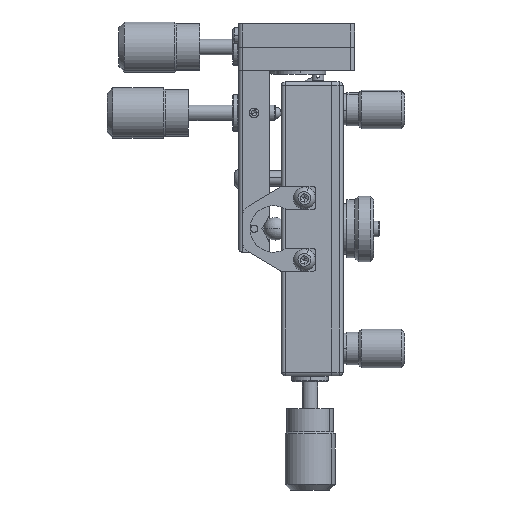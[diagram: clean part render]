
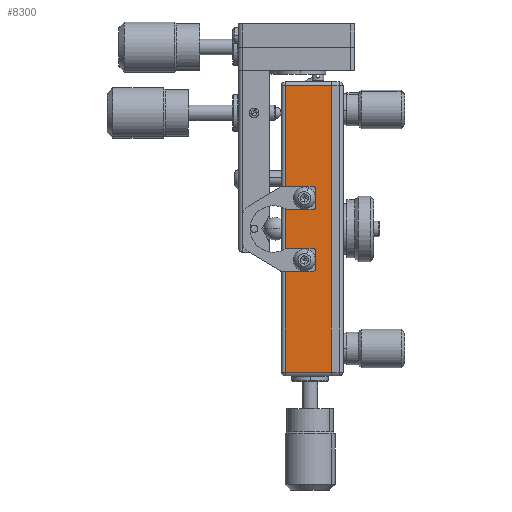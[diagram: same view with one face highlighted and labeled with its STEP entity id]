
A CAD part, left-side view. The second image highlights one B-rep face of the part: STEP entity #8300.
In plain terms, the highlighted planar face has unit normal (-1, 0, 0).
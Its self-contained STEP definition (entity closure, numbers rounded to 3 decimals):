
#57 = CARTESIAN_POINT ( 'NONE',  ( -38.5, -2.25, -37. ) ) ;
#1329 = DIRECTION ( 'NONE',  ( 0., 0., -1. ) ) ;
#1437 = DIRECTION ( 'NONE',  ( 0., 0., -1. ) ) ;
#1662 = VERTEX_POINT ( 'NONE', #5334 ) ;
#2663 = CARTESIAN_POINT ( 'NONE',  ( -38.5, 9.75, 37. ) ) ;
#2817 = ORIENTED_EDGE ( 'NONE', *, *, #28141, .F. ) ;
#3293 = CARTESIAN_POINT ( 'NONE',  ( -38.5, 9.75, -37. ) ) ;
#3414 = ORIENTED_EDGE ( 'NONE', *, *, #5582, .T. ) ;
#3905 = DIRECTION ( 'NONE',  ( 0., 0., -1. ) ) ;
#4269 = DIRECTION ( 'NONE',  ( -1., 0., 0. ) ) ;
#4854 = VERTEX_POINT ( 'NONE', #15795 ) ;
#5334 = CARTESIAN_POINT ( 'NONE',  ( -38.5, 4.75, -9.25 ) ) ;
#5582 = EDGE_CURVE ( 'NONE', #12887, #5741, #33134, .T. ) ;
#5741 = VERTEX_POINT ( 'NONE', #3293 ) ;
#6111 = LINE ( 'NONE', #25613, #20271 ) ;
#6240 = VERTEX_POINT ( 'NONE', #57 ) ;
#6841 = EDGE_CURVE ( 'NONE', #15980, #1662, #20567, .T. ) ;
#7402 = AXIS2_PLACEMENT_3D ( 'NONE', #9508, #14672, #1329 ) ;
#7580 = EDGE_CURVE ( 'NONE', #31473, #13650, #12854, .T. ) ;
#8300 = ADVANCED_FACE ( 'NONE', ( #9772, #13234, #22164 ), #8428, .F. ) ;
#8428 = PLANE ( 'NONE',  #28813 ) ;
#8571 = AXIS2_PLACEMENT_3D ( 'NONE', #23370, #15263, #1437 ) ;
#9124 = CARTESIAN_POINT ( 'NONE',  ( -38.5, 4.75, 6.75 ) ) ;
#9473 = DIRECTION ( 'NONE',  ( 0., -1., 0. ) ) ;
#9508 = CARTESIAN_POINT ( 'NONE',  ( -38.5, 4.75, 8. ) ) ;
#9596 = EDGE_LOOP ( 'NONE', ( #17227, #11741 ) ) ;
#9672 = AXIS2_PLACEMENT_3D ( 'NONE', #28650, #14901, #31386 ) ;
#9772 = FACE_BOUND ( 'NONE', #9596, .T. ) ;
#10731 = LINE ( 'NONE', #27142, #32583 ) ;
#10844 = CARTESIAN_POINT ( 'NONE',  ( -38.5, -2.25, -38. ) ) ;
#11741 = ORIENTED_EDGE ( 'NONE', *, *, #6841, .F. ) ;
#12519 = CIRCLE ( 'NONE', #9672, 1.25 ) ;
#12609 = DIRECTION ( 'NONE',  ( 0., 1., 0. ) ) ;
#12854 = CIRCLE ( 'NONE', #23493, 1.25 ) ;
#12887 = VERTEX_POINT ( 'NONE', #2663 ) ;
#12895 = ORIENTED_EDGE ( 'NONE', *, *, #31710, .T. ) ;
#13234 = FACE_BOUND ( 'NONE', #18410, .T. ) ;
#13464 = CARTESIAN_POINT ( 'NONE',  ( -38.5, 4.75, 9.25 ) ) ;
#13604 = EDGE_CURVE ( 'NONE', #5741, #6240, #6111, .T. ) ;
#13650 = VERTEX_POINT ( 'NONE', #9124 ) ;
#13852 = DIRECTION ( 'NONE',  ( 0., 0., 1. ) ) ;
#13966 = ORIENTED_EDGE ( 'NONE', *, *, #28440, .F. ) ;
#14672 = DIRECTION ( 'NONE',  ( -1., 0., 0. ) ) ;
#14901 = DIRECTION ( 'NONE',  ( -1., 0., 0. ) ) ;
#15263 = DIRECTION ( 'NONE',  ( -1., 0., 0. ) ) ;
#15552 = VECTOR ( 'NONE', #12609, 1000. ) ;
#15795 = CARTESIAN_POINT ( 'NONE',  ( -38.5, -2.25, 37. ) ) ;
#15980 = VERTEX_POINT ( 'NONE', #35015 ) ;
#17227 = ORIENTED_EDGE ( 'NONE', *, *, #19905, .F. ) ;
#18410 = EDGE_LOOP ( 'NONE', ( #13966, #35407 ) ) ;
#19905 = EDGE_CURVE ( 'NONE', #1662, #15980, #12519, .T. ) ;
#20271 = VECTOR ( 'NONE', #9473, 1000. ) ;
#20567 = CIRCLE ( 'NONE', #8571, 1.25 ) ;
#21274 = ORIENTED_EDGE ( 'NONE', *, *, #13604, .T. ) ;
#21961 = VECTOR ( 'NONE', #28734, 1000. ) ;
#22164 = FACE_OUTER_BOUND ( 'NONE', #33225, .T. ) ;
#22683 = CIRCLE ( 'NONE', #7402, 1.25 ) ;
#23370 = CARTESIAN_POINT ( 'NONE',  ( -38.5, 4.75, -8. ) ) ;
#23416 = CARTESIAN_POINT ( 'NONE',  ( -38.5, 9.75, -38. ) ) ;
#23493 = AXIS2_PLACEMENT_3D ( 'NONE', #34369, #4269, #3905 ) ;
#24718 = DIRECTION ( 'NONE',  ( 1., 0., 0. ) ) ;
#24936 = LINE ( 'NONE', #31350, #15552 ) ;
#25613 = CARTESIAN_POINT ( 'NONE',  ( -38.5, -2.25, -37. ) ) ;
#27028 = DIRECTION ( 'NONE',  ( 0., 0., -1. ) ) ;
#27142 = CARTESIAN_POINT ( 'NONE',  ( -38.5, -2.25, -38. ) ) ;
#28141 = EDGE_CURVE ( 'NONE', #4854, #6240, #10731, .T. ) ;
#28440 = EDGE_CURVE ( 'NONE', #13650, #31473, #22683, .T. ) ;
#28650 = CARTESIAN_POINT ( 'NONE',  ( -38.5, 4.75, -8. ) ) ;
#28734 = DIRECTION ( 'NONE',  ( 0., 0., -1. ) ) ;
#28813 = AXIS2_PLACEMENT_3D ( 'NONE', #10844, #24718, #13852 ) ;
#31350 = CARTESIAN_POINT ( 'NONE',  ( -38.5, -2.25, 37. ) ) ;
#31386 = DIRECTION ( 'NONE',  ( 0., 0., -1. ) ) ;
#31473 = VERTEX_POINT ( 'NONE', #13464 ) ;
#31710 = EDGE_CURVE ( 'NONE', #4854, #12887, #24936, .T. ) ;
#32583 = VECTOR ( 'NONE', #27028, 1000. ) ;
#33134 = LINE ( 'NONE', #23416, #21961 ) ;
#33225 = EDGE_LOOP ( 'NONE', ( #12895, #3414, #21274, #2817 ) ) ;
#34369 = CARTESIAN_POINT ( 'NONE',  ( -38.5, 4.75, 8. ) ) ;
#35015 = CARTESIAN_POINT ( 'NONE',  ( -38.5, 4.75, -6.75 ) ) ;
#35407 = ORIENTED_EDGE ( 'NONE', *, *, #7580, .F. ) ;
